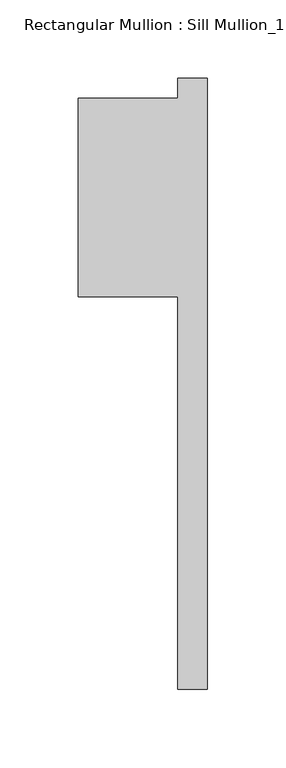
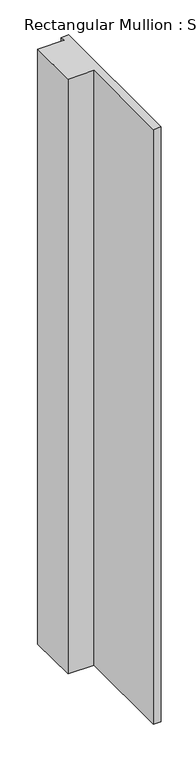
"""IFC4 building model written with IfcOpenShell, lengths in millimetres: member geometry."""

from ifc_helpers import new_model, si_unit, frame, origin, place, context, project, spatial, polyline, outline, extrude, source, transform, mapped, element, save


def member_921b82b5(model_context):
    return source(origin(), model_context, "Body", "SweptSolid", [
        extrude(outline(polyline([(-82.55, -50.8), (-82.55, 76.2), (-19.05, 76.2), (-19.05, 88.9), (0.0, 88.9), (0.0, -301.625), (-19.05, -301.625), (-19.05, -50.8), (-82.55, -50.8)])), frame((0.0, 0.0, -1530.35), z_axis=(0.0, 0.0, 1.0), x_axis=(1.0, 0.0, 0.0)), (0.0, 0.0, 1.0), 1530.35),
    ])


if __name__ == "__main__":
    model = new_model("IFC4")
    model_context = context("Model", 3, world=origin())
    ifc_project = project(units=[si_unit("LENGTHUNIT", "METRE", prefix="MILLI")], contexts=[model_context])
    site = spatial("IfcSite", under=ifc_project)
    building = spatial("IfcBuilding", under=site)
    placement = place(None, origin())
    member_shape = member_921b82b5(model_context)
    element("IfcMember", 1, ObjectType="Rectangular Mullion : Sill Mullion_15\" thick wall", at=placement, inside=building, context=model_context, shape_type="MappedRepresentation", body=[
        mapped(member_shape, transform((0.0, 0.0, 0.0), x_axis=(1.0, 0.0, 0.0), y_axis=(0.0, 1.0, 0.0), z_axis=(0.0, 0.0, 1.0))),
    ])
    save(model, "model.ifc")
